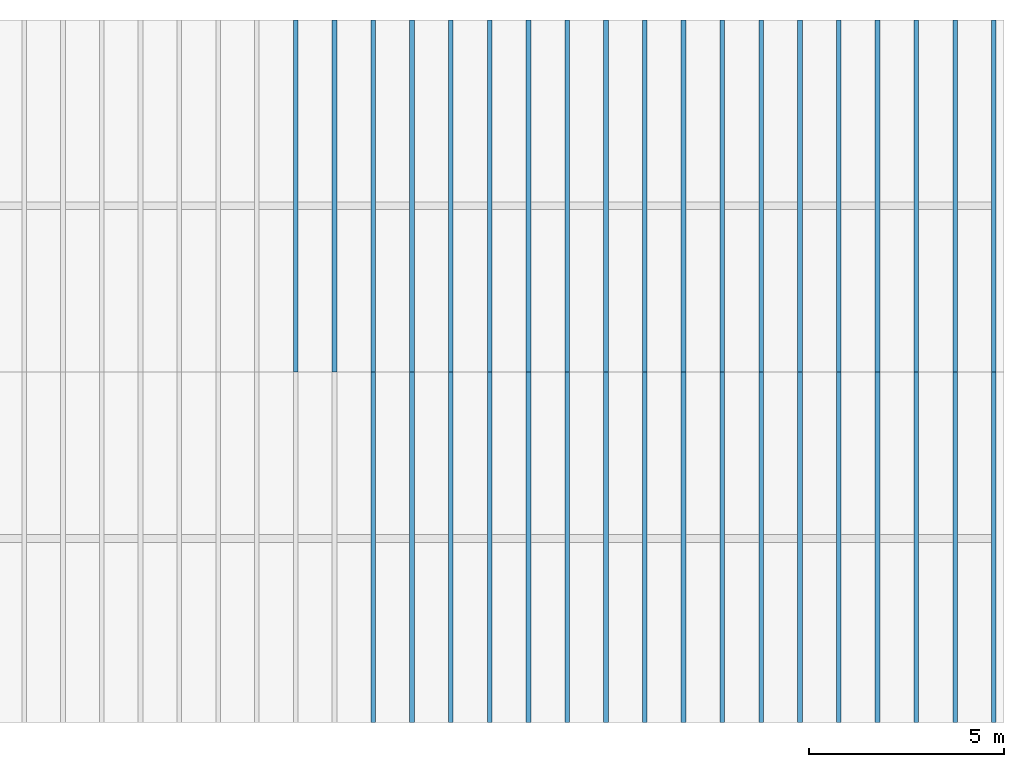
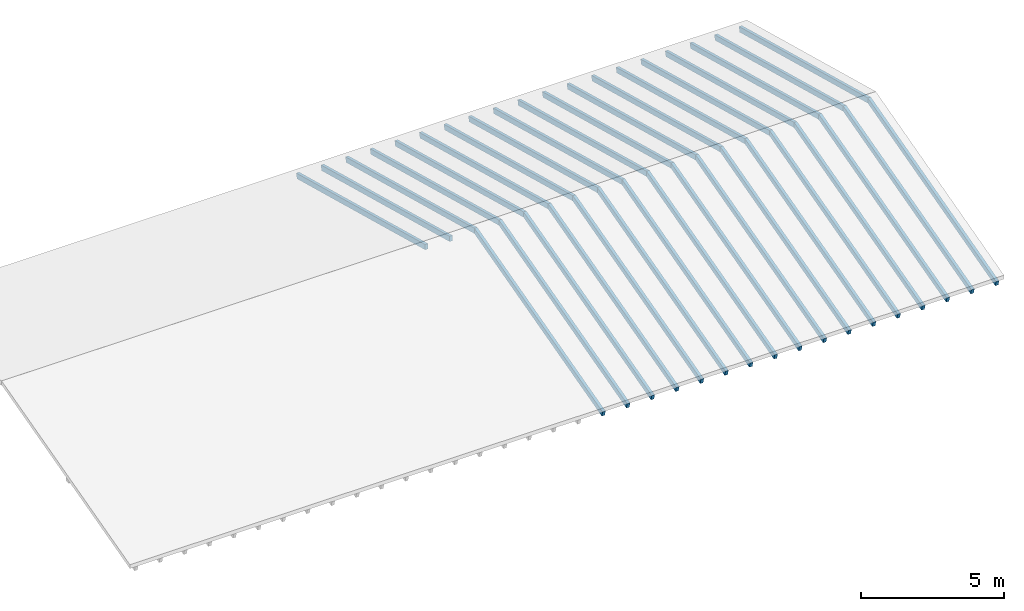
# One storey, part 2 of 3: 36 beams.
"""IFC4 building model written with IfcOpenShell, lengths in metres."""

from ifc_helpers import new_model, entity, si_unit, converted_unit, frame, origin_with_axes, origin_2d_with_axis, place, context, subcontext, project, spatial, rectangle, extrude, clip, halfspace, material, material_profile, profile_set, profile_usage, type_object, element, save


model = new_model("IFC4")

# Units and contexts
model_context = context("Model", 3, precision=1e-05, world=origin_with_axes())
plan_context = context("Plan", 2, precision=1e-05, world=origin_2d_with_axis())
body_context = subcontext(model_context, "Body", "Model", "MODEL_VIEW")
ifc_project = project(units=[converted_unit("PLANEANGLEUNIT", "degree", entity("IfcReal", 0.0174532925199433), si_unit("PLANEANGLEUNIT", "RADIAN"), dimensions=[0, 0, 0, 0, 0, 0, 0]), si_unit("AREAUNIT", "SQUARE_METRE"), si_unit("VOLUMEUNIT", "CUBIC_METRE"), si_unit("LENGTHUNIT", "METRE")], contexts=[model_context, plan_context])

# Site, building, storey
site_placement = place(None, origin_with_axes())
site = spatial("IfcSite", under=ifc_project, at=site_placement, Name="My Site")
building_placement = place(site_placement, origin_with_axes())
building = spatial("IfcBuilding", under=site, at=building_placement, Name="Werkhalle")
storey_placement = place(building_placement, frame((0.0, 0.0, 8.89999961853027), z_axis=(0.0, 0.0, 1.0), x_axis=(1.0, 0.0, 0.0)))
storey = spatial("IfcBuildingStorey", under=building, at=storey_placement, Name="05 Dach")

# Beams
ifc_material = material(Name="Fichte", Category="Holz")
ifc_material_profile = material_profile(ifc_material, rectangle(XDim=0.119999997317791, YDim=0.219999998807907))
ifc_profile_set = profile_set([ifc_material_profile], Name="Balken 12 / 22")
ifc_profile_usage_1 = profile_usage(ifc_profile_set, cardinal=1)
beam_type = type_object("IfcBeamType", Name="Holzbalken", PredefinedType="NOTDEFINED", material=ifc_profile_set)
beam_1_placement = place(storey_placement, frame((35.0000038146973, 16.9843139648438, -2.66374588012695), z_axis=(0.0, -0.965925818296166, 0.258819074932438), x_axis=(1.0, 0.0, 0.0)))
element("IfcBeam", 1, at=beam_1_placement, inside=storey, type_object=beam_type, material=ifc_profile_usage_1, Name="Sparren rechts", context=body_context, shape_type="Clipping", body=[
    clip(extrude(rectangle(XDim=0.119999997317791, YDim=0.219999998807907), frame((-0.0599999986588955, 0.109999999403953, 0.0), z_axis=(0.0, 0.0, 1.0), x_axis=(1.0, 0.0, 0.0)), (0.0, 0.0, 1.0), 9.96124942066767), halfspace(frame((-35.0000038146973, 0.220001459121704, 9.36019802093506), z_axis=(4.37113492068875e-08, -0.258823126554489, 0.965924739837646), x_axis=(-1.17125340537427e-08, -0.965924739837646, -0.258823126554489)), False)),
])
ifc_profile_usage_2 = profile_usage(ifc_profile_set, cardinal=3)
beam_2_placement = place(storey_placement, frame((35.0000038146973, -0.942802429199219, -2.65262269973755), z_axis=(-8.44439190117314e-08, 0.965925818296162, 0.258819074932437), x_axis=(-0.999999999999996, -8.74227765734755e-08, 7.16093850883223e-15)))
element("IfcBeam", 2, at=beam_2_placement, inside=storey, type_object=beam_type, material=ifc_profile_usage_2, Name="Sparren Links", context=body_context, shape_type="Clipping", body=[
    clip(extrude(rectangle(XDim=0.119999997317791, YDim=0.219999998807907), frame((0.0599999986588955, 0.109999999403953, 0.0), z_axis=(0.0, 0.0, 1.0), x_axis=(1.0, 0.0, 0.0)), (0.0, 0.0, 1.0), 9.91827341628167), halfspace(frame((35.0000038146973, 0.220000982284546, 9.31722068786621), z_axis=(-4.37114344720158e-08, -0.2588150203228, 0.965926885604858), x_axis=(1.17121610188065e-08, -0.965926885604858, -0.2588150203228)), False)),
])
ifc_profile_usage_3 = profile_usage(ifc_profile_set, cardinal=1)
beam_3_placement = place(storey_placement, frame((34.0040054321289, 16.9843139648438, -2.66374588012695), z_axis=(0.0, -0.965925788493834, 0.258819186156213), x_axis=(1.0, 0.0, 0.0)))
element("IfcBeam", 3, at=beam_3_placement, inside=storey, type_object=beam_type, material=ifc_profile_usage_3, Name="Sparren rechts", context=body_context, shape_type="Clipping", body=[
    clip(extrude(rectangle(XDim=0.119999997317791, YDim=0.219999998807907), frame((-0.0599999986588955, 0.109999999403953, 0.0), z_axis=(0.0, 0.0, 1.0), x_axis=(1.0, 0.0, 0.0)), (0.0, 0.0, 1.0), 9.96124942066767), halfspace(frame((-35.0000038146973, 0.220001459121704, 9.36019802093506), z_axis=(4.37113492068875e-08, -0.258823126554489, 0.965924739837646), x_axis=(-1.17125340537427e-08, -0.965924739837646, -0.258823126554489)), False)),
])
ifc_profile_usage_4 = profile_usage(ifc_profile_set, cardinal=1)
beam_4_placement = place(storey_placement, frame((33.0080032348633, 16.9843139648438, -2.66374588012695), z_axis=(0.0, -0.965925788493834, 0.258819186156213), x_axis=(1.0, 0.0, 0.0)))
element("IfcBeam", 4, at=beam_4_placement, inside=storey, type_object=beam_type, material=ifc_profile_usage_4, Name="Sparren rechts", context=body_context, shape_type="Clipping", body=[
    clip(extrude(rectangle(XDim=0.119999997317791, YDim=0.219999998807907), frame((-0.0599999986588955, 0.109999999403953, 0.0), z_axis=(0.0, 0.0, 1.0), x_axis=(1.0, 0.0, 0.0)), (0.0, 0.0, 1.0), 9.96124942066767), halfspace(frame((-35.0000038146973, 0.220001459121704, 9.36019802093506), z_axis=(4.37113492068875e-08, -0.258823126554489, 0.965924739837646), x_axis=(-1.17125340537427e-08, -0.965924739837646, -0.258823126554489)), False)),
])
ifc_profile_usage_5 = profile_usage(ifc_profile_set, cardinal=1)
beam_5_placement = place(storey_placement, frame((32.0120048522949, 16.9843139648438, -2.66374588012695), z_axis=(0.0, -0.965925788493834, 0.258819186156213), x_axis=(1.0, 0.0, 0.0)))
element("IfcBeam", 5, at=beam_5_placement, inside=storey, type_object=beam_type, material=ifc_profile_usage_5, Name="Sparren rechts", context=body_context, shape_type="Clipping", body=[
    clip(extrude(rectangle(XDim=0.119999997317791, YDim=0.219999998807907), frame((-0.0599999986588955, 0.109999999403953, 0.0), z_axis=(0.0, 0.0, 1.0), x_axis=(1.0, 0.0, 0.0)), (0.0, 0.0, 1.0), 9.96124942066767), halfspace(frame((-35.0000038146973, 0.220001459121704, 9.36019802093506), z_axis=(4.37113492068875e-08, -0.258823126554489, 0.965924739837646), x_axis=(-1.17125340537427e-08, -0.965924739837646, -0.258823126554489)), False)),
])
ifc_profile_usage_6 = profile_usage(ifc_profile_set, cardinal=1)
beam_6_placement = place(storey_placement, frame((31.0160045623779, 16.9843139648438, -2.66374588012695), z_axis=(0.0, -0.965925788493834, 0.258819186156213), x_axis=(1.0, 0.0, 0.0)))
element("IfcBeam", 6, at=beam_6_placement, inside=storey, type_object=beam_type, material=ifc_profile_usage_6, Name="Sparren rechts", context=body_context, shape_type="Clipping", body=[
    clip(extrude(rectangle(XDim=0.119999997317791, YDim=0.219999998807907), frame((-0.0599999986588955, 0.109999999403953, 0.0), z_axis=(0.0, 0.0, 1.0), x_axis=(1.0, 0.0, 0.0)), (0.0, 0.0, 1.0), 9.96124942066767), halfspace(frame((-35.0000038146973, 0.220001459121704, 9.36019802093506), z_axis=(4.37113492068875e-08, -0.258823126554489, 0.965924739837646), x_axis=(-1.17125340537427e-08, -0.965924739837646, -0.258823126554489)), False)),
])
ifc_profile_usage_7 = profile_usage(ifc_profile_set, cardinal=1)
beam_7_placement = place(storey_placement, frame((30.0200042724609, 16.9843139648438, -2.66374588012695), z_axis=(0.0, -0.965925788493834, 0.258819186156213), x_axis=(1.0, 0.0, 0.0)))
element("IfcBeam", 7, at=beam_7_placement, inside=storey, type_object=beam_type, material=ifc_profile_usage_7, Name="Sparren rechts", context=body_context, shape_type="Clipping", body=[
    clip(extrude(rectangle(XDim=0.119999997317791, YDim=0.219999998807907), frame((-0.0599999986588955, 0.109999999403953, 0.0), z_axis=(0.0, 0.0, 1.0), x_axis=(1.0, 0.0, 0.0)), (0.0, 0.0, 1.0), 9.96124942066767), halfspace(frame((-35.0000038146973, 0.220001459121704, 9.36019802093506), z_axis=(4.37113492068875e-08, -0.258823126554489, 0.965924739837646), x_axis=(-1.17125340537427e-08, -0.965924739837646, -0.258823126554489)), False)),
])
ifc_profile_usage_8 = profile_usage(ifc_profile_set, cardinal=1)
beam_8_placement = place(storey_placement, frame((29.0240039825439, 16.9843139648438, -2.66374588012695), z_axis=(0.0, -0.965925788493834, 0.258819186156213), x_axis=(1.0, 0.0, 0.0)))
element("IfcBeam", 8, at=beam_8_placement, inside=storey, type_object=beam_type, material=ifc_profile_usage_8, Name="Sparren rechts", context=body_context, shape_type="Clipping", body=[
    clip(extrude(rectangle(XDim=0.119999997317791, YDim=0.219999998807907), frame((-0.0599999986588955, 0.109999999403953, 0.0), z_axis=(0.0, 0.0, 1.0), x_axis=(1.0, 0.0, 0.0)), (0.0, 0.0, 1.0), 9.96124942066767), halfspace(frame((-35.0000038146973, 0.220001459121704, 9.36019802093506), z_axis=(4.37113492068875e-08, -0.258823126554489, 0.965924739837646), x_axis=(-1.17125340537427e-08, -0.965924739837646, -0.258823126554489)), False)),
])
ifc_profile_usage_9 = profile_usage(ifc_profile_set, cardinal=1)
beam_9_placement = place(storey_placement, frame((28.028003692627, 16.9843139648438, -2.66374588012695), z_axis=(0.0, -0.965925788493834, 0.258819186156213), x_axis=(1.0, 0.0, 0.0)))
element("IfcBeam", 9, at=beam_9_placement, inside=storey, type_object=beam_type, material=ifc_profile_usage_9, Name="Sparren rechts", context=body_context, shape_type="Clipping", body=[
    clip(extrude(rectangle(XDim=0.119999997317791, YDim=0.219999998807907), frame((-0.0599999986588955, 0.109999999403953, 0.0), z_axis=(0.0, 0.0, 1.0), x_axis=(1.0, 0.0, 0.0)), (0.0, 0.0, 1.0), 9.96124942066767), halfspace(frame((-35.0000038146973, 0.220001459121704, 9.36019802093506), z_axis=(4.37113492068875e-08, -0.258823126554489, 0.965924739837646), x_axis=(-1.17125340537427e-08, -0.965924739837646, -0.258823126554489)), False)),
])
ifc_profile_usage_10 = profile_usage(ifc_profile_set, cardinal=1)
beam_10_placement = place(storey_placement, frame((27.03200340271, 16.9843139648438, -2.66374588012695), z_axis=(0.0, -0.965925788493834, 0.258819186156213), x_axis=(1.0, 0.0, 0.0)))
element("IfcBeam", 10, at=beam_10_placement, inside=storey, type_object=beam_type, material=ifc_profile_usage_10, Name="Sparren rechts", context=body_context, shape_type="Clipping", body=[
    clip(extrude(rectangle(XDim=0.119999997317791, YDim=0.219999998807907), frame((-0.0599999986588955, 0.109999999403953, 0.0), z_axis=(0.0, 0.0, 1.0), x_axis=(1.0, 0.0, 0.0)), (0.0, 0.0, 1.0), 9.96124942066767), halfspace(frame((-35.0000038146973, 0.220001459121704, 9.36019802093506), z_axis=(4.37113492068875e-08, -0.258823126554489, 0.965924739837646), x_axis=(-1.17125340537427e-08, -0.965924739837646, -0.258823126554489)), False)),
])
ifc_profile_usage_11 = profile_usage(ifc_profile_set, cardinal=1)
beam_11_placement = place(storey_placement, frame((26.036003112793, 16.9843139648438, -2.66374588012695), z_axis=(0.0, -0.965925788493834, 0.258819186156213), x_axis=(1.0, 0.0, 0.0)))
element("IfcBeam", 11, at=beam_11_placement, inside=storey, type_object=beam_type, material=ifc_profile_usage_11, Name="Sparren rechts", context=body_context, shape_type="Clipping", body=[
    clip(extrude(rectangle(XDim=0.119999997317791, YDim=0.219999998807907), frame((-0.0599999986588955, 0.109999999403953, 0.0), z_axis=(0.0, 0.0, 1.0), x_axis=(1.0, 0.0, 0.0)), (0.0, 0.0, 1.0), 9.96124942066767), halfspace(frame((-35.0000038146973, 0.220001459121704, 9.36019802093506), z_axis=(4.37113492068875e-08, -0.258823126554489, 0.965924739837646), x_axis=(-1.17125340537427e-08, -0.965924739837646, -0.258823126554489)), False)),
])
ifc_profile_usage_12 = profile_usage(ifc_profile_set, cardinal=1)
beam_12_placement = place(storey_placement, frame((25.0400047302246, 16.9843139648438, -2.66374588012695), z_axis=(0.0, -0.965925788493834, 0.258819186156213), x_axis=(1.0, 0.0, 0.0)))
element("IfcBeam", 12, at=beam_12_placement, inside=storey, type_object=beam_type, material=ifc_profile_usage_12, Name="Sparren rechts", context=body_context, shape_type="Clipping", body=[
    clip(extrude(rectangle(XDim=0.119999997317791, YDim=0.219999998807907), frame((-0.0599999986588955, 0.109999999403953, 0.0), z_axis=(0.0, 0.0, 1.0), x_axis=(1.0, 0.0, 0.0)), (0.0, 0.0, 1.0), 9.96124942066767), halfspace(frame((-35.0000038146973, 0.220001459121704, 9.36019802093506), z_axis=(4.37113492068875e-08, -0.258823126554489, 0.965924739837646), x_axis=(-1.17125340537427e-08, -0.965924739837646, -0.258823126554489)), False)),
])
ifc_profile_usage_13 = profile_usage(ifc_profile_set, cardinal=1)
beam_13_placement = place(storey_placement, frame((24.044002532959, 16.9843139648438, -2.66374588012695), z_axis=(0.0, -0.965925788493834, 0.258819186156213), x_axis=(1.0, 0.0, 0.0)))
element("IfcBeam", 13, at=beam_13_placement, inside=storey, type_object=beam_type, material=ifc_profile_usage_13, Name="Sparren rechts", context=body_context, shape_type="Clipping", body=[
    clip(extrude(rectangle(XDim=0.119999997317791, YDim=0.219999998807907), frame((-0.0599999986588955, 0.109999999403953, 0.0), z_axis=(0.0, 0.0, 1.0), x_axis=(1.0, 0.0, 0.0)), (0.0, 0.0, 1.0), 9.96124942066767), halfspace(frame((-35.0000038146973, 0.220001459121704, 9.36019802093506), z_axis=(4.37113492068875e-08, -0.258823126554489, 0.965924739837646), x_axis=(-1.17125340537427e-08, -0.965924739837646, -0.258823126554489)), False)),
])
ifc_profile_usage_14 = profile_usage(ifc_profile_set, cardinal=1)
beam_14_placement = place(storey_placement, frame((23.0480041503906, 16.9843139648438, -2.66374588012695), z_axis=(0.0, -0.965925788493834, 0.258819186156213), x_axis=(1.0, 0.0, 0.0)))
element("IfcBeam", 14, at=beam_14_placement, inside=storey, type_object=beam_type, material=ifc_profile_usage_14, Name="Sparren rechts", context=body_context, shape_type="Clipping", body=[
    clip(extrude(rectangle(XDim=0.119999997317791, YDim=0.219999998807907), frame((-0.0599999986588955, 0.109999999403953, 0.0), z_axis=(0.0, 0.0, 1.0), x_axis=(1.0, 0.0, 0.0)), (0.0, 0.0, 1.0), 9.96124942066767), halfspace(frame((-35.0000038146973, 0.220001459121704, 9.36019802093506), z_axis=(4.37113492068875e-08, -0.258823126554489, 0.965924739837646), x_axis=(-1.17125340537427e-08, -0.965924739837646, -0.258823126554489)), False)),
])
ifc_profile_usage_15 = profile_usage(ifc_profile_set, cardinal=1)
beam_15_placement = place(storey_placement, frame((22.0520038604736, 16.9843139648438, -2.66374588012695), z_axis=(0.0, -0.965925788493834, 0.258819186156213), x_axis=(1.0, 0.0, 0.0)))
element("IfcBeam", 15, at=beam_15_placement, inside=storey, type_object=beam_type, material=ifc_profile_usage_15, Name="Sparren rechts", context=body_context, shape_type="Clipping", body=[
    clip(extrude(rectangle(XDim=0.119999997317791, YDim=0.219999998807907), frame((-0.0599999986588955, 0.109999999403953, 0.0), z_axis=(0.0, 0.0, 1.0), x_axis=(1.0, 0.0, 0.0)), (0.0, 0.0, 1.0), 9.96124942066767), halfspace(frame((-35.0000038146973, 0.220001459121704, 9.36019802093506), z_axis=(4.37113492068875e-08, -0.258823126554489, 0.965924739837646), x_axis=(-1.17125340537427e-08, -0.965924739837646, -0.258823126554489)), False)),
])
ifc_profile_usage_16 = profile_usage(ifc_profile_set, cardinal=1)
beam_16_placement = place(storey_placement, frame((21.0560035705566, 16.9843139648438, -2.66374588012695), z_axis=(0.0, -0.965925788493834, 0.258819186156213), x_axis=(1.0, 0.0, 0.0)))
element("IfcBeam", 16, at=beam_16_placement, inside=storey, type_object=beam_type, material=ifc_profile_usage_16, Name="Sparren rechts", context=body_context, shape_type="Clipping", body=[
    clip(extrude(rectangle(XDim=0.119999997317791, YDim=0.219999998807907), frame((-0.0599999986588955, 0.109999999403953, 0.0), z_axis=(0.0, 0.0, 1.0), x_axis=(1.0, 0.0, 0.0)), (0.0, 0.0, 1.0), 9.96124942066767), halfspace(frame((-35.0000038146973, 0.220001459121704, 9.36019802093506), z_axis=(4.37113492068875e-08, -0.258823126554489, 0.965924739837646), x_axis=(-1.17125340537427e-08, -0.965924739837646, -0.258823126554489)), False)),
])
ifc_profile_usage_17 = profile_usage(ifc_profile_set, cardinal=1)
beam_17_placement = place(storey_placement, frame((20.0600051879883, 16.9843139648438, -2.66374588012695), z_axis=(0.0, -0.965925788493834, 0.258819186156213), x_axis=(1.0, 0.0, 0.0)))
element("IfcBeam", 17, at=beam_17_placement, inside=storey, type_object=beam_type, material=ifc_profile_usage_17, Name="Sparren rechts", context=body_context, shape_type="Clipping", body=[
    clip(extrude(rectangle(XDim=0.119999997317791, YDim=0.219999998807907), frame((-0.0599999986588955, 0.109999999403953, 0.0), z_axis=(0.0, 0.0, 1.0), x_axis=(1.0, 0.0, 0.0)), (0.0, 0.0, 1.0), 9.96124942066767), halfspace(frame((-35.0000038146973, 0.220001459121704, 9.36019802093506), z_axis=(4.37113492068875e-08, -0.258823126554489, 0.965924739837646), x_axis=(-1.17125340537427e-08, -0.965924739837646, -0.258823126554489)), False)),
])
ifc_profile_usage_18 = profile_usage(ifc_profile_set, cardinal=1)
beam_18_placement = place(storey_placement, frame((19.0640029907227, 16.9843139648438, -2.66374588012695), z_axis=(0.0, -0.965925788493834, 0.258819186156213), x_axis=(1.0, 0.0, 0.0)))
element("IfcBeam", 18, at=beam_18_placement, inside=storey, type_object=beam_type, material=ifc_profile_usage_18, Name="Sparren rechts", context=body_context, shape_type="Clipping", body=[
    clip(extrude(rectangle(XDim=0.119999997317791, YDim=0.219999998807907), frame((-0.0599999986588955, 0.109999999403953, 0.0), z_axis=(0.0, 0.0, 1.0), x_axis=(1.0, 0.0, 0.0)), (0.0, 0.0, 1.0), 9.96124942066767), halfspace(frame((-35.0000038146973, 0.220001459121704, 9.36019802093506), z_axis=(4.37113492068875e-08, -0.258823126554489, 0.965924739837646), x_axis=(-1.17125340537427e-08, -0.965924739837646, -0.258823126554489)), False)),
])
ifc_profile_usage_19 = profile_usage(ifc_profile_set, cardinal=1)
beam_19_placement = place(storey_placement, frame((18.0680046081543, 16.9843139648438, -2.66374588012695), z_axis=(0.0, -0.965925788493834, 0.258819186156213), x_axis=(1.0, 0.0, 0.0)))
element("IfcBeam", 19, at=beam_19_placement, inside=storey, type_object=beam_type, material=ifc_profile_usage_19, Name="Sparren rechts", context=body_context, shape_type="Clipping", body=[
    clip(extrude(rectangle(XDim=0.119999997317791, YDim=0.219999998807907), frame((-0.0599999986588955, 0.109999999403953, 0.0), z_axis=(0.0, 0.0, 1.0), x_axis=(1.0, 0.0, 0.0)), (0.0, 0.0, 1.0), 9.96124942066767), halfspace(frame((-35.0000038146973, 0.220001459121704, 9.36019802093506), z_axis=(4.37113492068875e-08, -0.258823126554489, 0.965924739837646), x_axis=(-1.17125340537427e-08, -0.965924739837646, -0.258823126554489)), False)),
])
ifc_profile_usage_20 = profile_usage(ifc_profile_set, cardinal=1)
beam_20_placement = place(storey_placement, frame((17.0720043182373, 16.9843139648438, -2.66374588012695), z_axis=(0.0, -0.965925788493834, 0.258819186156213), x_axis=(1.0, 0.0, 0.0)))
element("IfcBeam", 20, at=beam_20_placement, inside=storey, type_object=beam_type, material=ifc_profile_usage_20, Name="Sparren rechts", context=body_context, shape_type="Clipping", body=[
    clip(extrude(rectangle(XDim=0.119999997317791, YDim=0.219999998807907), frame((-0.0599999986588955, 0.109999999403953, 0.0), z_axis=(0.0, 0.0, 1.0), x_axis=(1.0, 0.0, 0.0)), (0.0, 0.0, 1.0), 9.96124942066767), halfspace(frame((-35.0000038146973, 0.220001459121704, 9.36019802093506), z_axis=(4.37113492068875e-08, -0.258823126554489, 0.965924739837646), x_axis=(-1.17125340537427e-08, -0.965924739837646, -0.258823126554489)), False)),
])
ifc_profile_usage_21 = profile_usage(ifc_profile_set, cardinal=3)
beam_21_placement = place(storey_placement, frame((34.0040054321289, -0.942802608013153, -2.65262269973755), z_axis=(-1.45850730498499e-07, 0.965925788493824, 0.25881918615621), x_axis=(-0.999999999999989, -1.50995802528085e-07, 4.07969310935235e-15)))
element("IfcBeam", 21, at=beam_21_placement, inside=storey, type_object=beam_type, material=ifc_profile_usage_21, Name="Sparren Links", context=body_context, shape_type="Clipping", body=[
    clip(extrude(rectangle(XDim=0.119999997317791, YDim=0.219999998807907), frame((0.0599999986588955, 0.109999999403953, 0.0), z_axis=(0.0, 0.0, 1.0), x_axis=(1.0, 0.0, 0.0)), (0.0, 0.0, 1.0), 9.91827341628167), halfspace(frame((35.0000038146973, 0.220000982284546, 9.31722068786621), z_axis=(-4.37114344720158e-08, -0.2588150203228, 0.965926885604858), x_axis=(1.17121610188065e-08, -0.965926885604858, -0.2588150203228)), False)),
])
ifc_profile_usage_22 = profile_usage(ifc_profile_set, cardinal=3)
beam_22_placement = place(storey_placement, frame((33.0080032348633, -0.942802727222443, -2.65262269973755), z_axis=(-1.45850730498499e-07, 0.965925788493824, 0.25881918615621), x_axis=(-0.999999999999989, -1.50995802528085e-07, 4.07969310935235e-15)))
element("IfcBeam", 22, at=beam_22_placement, inside=storey, type_object=beam_type, material=ifc_profile_usage_22, Name="Sparren Links", context=body_context, shape_type="Clipping", body=[
    clip(extrude(rectangle(XDim=0.119999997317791, YDim=0.219999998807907), frame((0.0599999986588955, 0.109999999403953, 0.0), z_axis=(0.0, 0.0, 1.0), x_axis=(1.0, 0.0, 0.0)), (0.0, 0.0, 1.0), 9.91827341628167), halfspace(frame((35.0000038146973, 0.220000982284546, 9.31722068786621), z_axis=(-4.37114344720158e-08, -0.2588150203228, 0.965926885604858), x_axis=(1.17121610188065e-08, -0.965926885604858, -0.2588150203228)), False)),
])
ifc_profile_usage_23 = profile_usage(ifc_profile_set, cardinal=3)
beam_23_placement = place(storey_placement, frame((32.0120048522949, -0.942802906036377, -2.65262269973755), z_axis=(-1.45850730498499e-07, 0.965925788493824, 0.25881918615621), x_axis=(-0.999999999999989, -1.50995802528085e-07, 4.07969310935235e-15)))
element("IfcBeam", 23, at=beam_23_placement, inside=storey, type_object=beam_type, material=ifc_profile_usage_23, Name="Sparren Links", context=body_context, shape_type="Clipping", body=[
    clip(extrude(rectangle(XDim=0.119999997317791, YDim=0.219999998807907), frame((0.0599999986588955, 0.109999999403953, 0.0), z_axis=(0.0, 0.0, 1.0), x_axis=(1.0, 0.0, 0.0)), (0.0, 0.0, 1.0), 9.91827341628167), halfspace(frame((35.0000038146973, 0.220000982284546, 9.31722068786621), z_axis=(-4.37114344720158e-08, -0.2588150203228, 0.965926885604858), x_axis=(1.17121610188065e-08, -0.965926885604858, -0.2588150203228)), False)),
])
ifc_profile_usage_24 = profile_usage(ifc_profile_set, cardinal=3)
beam_24_placement = place(storey_placement, frame((31.0160045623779, -0.942803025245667, -2.65262269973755), z_axis=(-1.45850730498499e-07, 0.965925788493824, 0.25881918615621), x_axis=(-0.999999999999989, -1.50995802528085e-07, 4.07969310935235e-15)))
element("IfcBeam", 24, at=beam_24_placement, inside=storey, type_object=beam_type, material=ifc_profile_usage_24, Name="Sparren Links", context=body_context, shape_type="Clipping", body=[
    clip(extrude(rectangle(XDim=0.119999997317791, YDim=0.219999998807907), frame((0.0599999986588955, 0.109999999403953, 0.0), z_axis=(0.0, 0.0, 1.0), x_axis=(1.0, 0.0, 0.0)), (0.0, 0.0, 1.0), 9.91827341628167), halfspace(frame((35.0000038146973, 0.220000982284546, 9.31722068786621), z_axis=(-4.37114344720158e-08, -0.2588150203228, 0.965926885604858), x_axis=(1.17121610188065e-08, -0.965926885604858, -0.2588150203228)), False)),
])
ifc_profile_usage_25 = profile_usage(ifc_profile_set, cardinal=3)
beam_25_placement = place(storey_placement, frame((30.0200042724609, -0.942803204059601, -2.65262269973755), z_axis=(-1.45850730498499e-07, 0.965925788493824, 0.25881918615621), x_axis=(-0.999999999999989, -1.50995802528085e-07, 4.07969310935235e-15)))
element("IfcBeam", 25, at=beam_25_placement, inside=storey, type_object=beam_type, material=ifc_profile_usage_25, Name="Sparren Links", context=body_context, shape_type="Clipping", body=[
    clip(extrude(rectangle(XDim=0.119999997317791, YDim=0.219999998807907), frame((0.0599999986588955, 0.109999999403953, 0.0), z_axis=(0.0, 0.0, 1.0), x_axis=(1.0, 0.0, 0.0)), (0.0, 0.0, 1.0), 9.91827341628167), halfspace(frame((35.0000038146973, 0.220000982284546, 9.31722068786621), z_axis=(-4.37114344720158e-08, -0.2588150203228, 0.965926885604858), x_axis=(1.17121610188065e-08, -0.965926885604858, -0.2588150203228)), False)),
])
ifc_profile_usage_26 = profile_usage(ifc_profile_set, cardinal=3)
beam_26_placement = place(storey_placement, frame((29.0240039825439, -0.94280332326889, -2.65262269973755), z_axis=(-1.45850730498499e-07, 0.965925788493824, 0.25881918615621), x_axis=(-0.999999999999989, -1.50995802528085e-07, 4.07969310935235e-15)))
element("IfcBeam", 26, at=beam_26_placement, inside=storey, type_object=beam_type, material=ifc_profile_usage_26, Name="Sparren Links", context=body_context, shape_type="Clipping", body=[
    clip(extrude(rectangle(XDim=0.119999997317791, YDim=0.219999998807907), frame((0.0599999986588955, 0.109999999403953, 0.0), z_axis=(0.0, 0.0, 1.0), x_axis=(1.0, 0.0, 0.0)), (0.0, 0.0, 1.0), 9.91827341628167), halfspace(frame((35.0000038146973, 0.220000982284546, 9.31722068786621), z_axis=(-4.37114344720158e-08, -0.2588150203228, 0.965926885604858), x_axis=(1.17121610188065e-08, -0.965926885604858, -0.2588150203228)), False)),
])
ifc_profile_usage_27 = profile_usage(ifc_profile_set, cardinal=3)
beam_27_placement = place(storey_placement, frame((28.028003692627, -0.942803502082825, -2.65262269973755), z_axis=(-1.45850730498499e-07, 0.965925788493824, 0.25881918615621), x_axis=(-0.999999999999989, -1.50995802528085e-07, 4.07969310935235e-15)))
element("IfcBeam", 27, at=beam_27_placement, inside=storey, type_object=beam_type, material=ifc_profile_usage_27, Name="Sparren Links", context=body_context, shape_type="Clipping", body=[
    clip(extrude(rectangle(XDim=0.119999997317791, YDim=0.219999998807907), frame((0.0599999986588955, 0.109999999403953, 0.0), z_axis=(0.0, 0.0, 1.0), x_axis=(1.0, 0.0, 0.0)), (0.0, 0.0, 1.0), 9.91827341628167), halfspace(frame((35.0000038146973, 0.220000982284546, 9.31722068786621), z_axis=(-4.37114344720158e-08, -0.2588150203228, 0.965926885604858), x_axis=(1.17121610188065e-08, -0.965926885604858, -0.2588150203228)), False)),
])
ifc_profile_usage_28 = profile_usage(ifc_profile_set, cardinal=3)
beam_28_placement = place(storey_placement, frame((27.03200340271, -0.942803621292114, -2.65262269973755), z_axis=(-1.45850730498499e-07, 0.965925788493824, 0.25881918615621), x_axis=(-0.999999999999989, -1.50995802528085e-07, 4.07969310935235e-15)))
element("IfcBeam", 28, at=beam_28_placement, inside=storey, type_object=beam_type, material=ifc_profile_usage_28, Name="Sparren Links", context=body_context, shape_type="Clipping", body=[
    clip(extrude(rectangle(XDim=0.119999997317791, YDim=0.219999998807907), frame((0.0599999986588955, 0.109999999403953, 0.0), z_axis=(0.0, 0.0, 1.0), x_axis=(1.0, 0.0, 0.0)), (0.0, 0.0, 1.0), 9.91827341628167), halfspace(frame((35.0000038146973, 0.220000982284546, 9.31722068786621), z_axis=(-4.37114344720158e-08, -0.2588150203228, 0.965926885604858), x_axis=(1.17121610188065e-08, -0.965926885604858, -0.2588150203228)), False)),
])
ifc_profile_usage_29 = profile_usage(ifc_profile_set, cardinal=3)
beam_29_placement = place(storey_placement, frame((26.036003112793, -0.942803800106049, -2.65262269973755), z_axis=(-1.45850730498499e-07, 0.965925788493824, 0.25881918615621), x_axis=(-0.999999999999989, -1.50995802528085e-07, 4.07969310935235e-15)))
element("IfcBeam", 29, at=beam_29_placement, inside=storey, type_object=beam_type, material=ifc_profile_usage_29, Name="Sparren Links", context=body_context, shape_type="Clipping", body=[
    clip(extrude(rectangle(XDim=0.119999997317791, YDim=0.219999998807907), frame((0.0599999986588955, 0.109999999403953, 0.0), z_axis=(0.0, 0.0, 1.0), x_axis=(1.0, 0.0, 0.0)), (0.0, 0.0, 1.0), 9.91827341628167), halfspace(frame((35.0000038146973, 0.220000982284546, 9.31722068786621), z_axis=(-4.37114344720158e-08, -0.2588150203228, 0.965926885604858), x_axis=(1.17121610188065e-08, -0.965926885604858, -0.2588150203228)), False)),
])
ifc_profile_usage_30 = profile_usage(ifc_profile_set, cardinal=3)
beam_30_placement = place(storey_placement, frame((25.0400047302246, -0.942803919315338, -2.65262269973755), z_axis=(-1.45850730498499e-07, 0.965925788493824, 0.25881918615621), x_axis=(-0.999999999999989, -1.50995802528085e-07, 4.07969310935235e-15)))
element("IfcBeam", 30, at=beam_30_placement, inside=storey, type_object=beam_type, material=ifc_profile_usage_30, Name="Sparren Links", context=body_context, shape_type="Clipping", body=[
    clip(extrude(rectangle(XDim=0.119999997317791, YDim=0.219999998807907), frame((0.0599999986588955, 0.109999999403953, 0.0), z_axis=(0.0, 0.0, 1.0), x_axis=(1.0, 0.0, 0.0)), (0.0, 0.0, 1.0), 9.91827341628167), halfspace(frame((35.0000038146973, 0.220000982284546, 9.31722068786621), z_axis=(-4.37114344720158e-08, -0.2588150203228, 0.965926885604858), x_axis=(1.17121610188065e-08, -0.965926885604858, -0.2588150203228)), False)),
])
ifc_profile_usage_31 = profile_usage(ifc_profile_set, cardinal=3)
beam_31_placement = place(storey_placement, frame((24.044002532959, -0.942804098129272, -2.65262269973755), z_axis=(-1.45850730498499e-07, 0.965925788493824, 0.25881918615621), x_axis=(-0.999999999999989, -1.50995802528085e-07, 4.07969310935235e-15)))
element("IfcBeam", 31, at=beam_31_placement, inside=storey, type_object=beam_type, material=ifc_profile_usage_31, Name="Sparren Links", context=body_context, shape_type="Clipping", body=[
    clip(extrude(rectangle(XDim=0.119999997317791, YDim=0.219999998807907), frame((0.0599999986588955, 0.109999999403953, 0.0), z_axis=(0.0, 0.0, 1.0), x_axis=(1.0, 0.0, 0.0)), (0.0, 0.0, 1.0), 9.91827341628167), halfspace(frame((35.0000038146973, 0.220000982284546, 9.31722068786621), z_axis=(-4.37114344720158e-08, -0.2588150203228, 0.965926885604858), x_axis=(1.17121610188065e-08, -0.965926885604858, -0.2588150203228)), False)),
])
ifc_profile_usage_32 = profile_usage(ifc_profile_set, cardinal=3)
beam_32_placement = place(storey_placement, frame((23.0480041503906, -0.942804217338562, -2.65262269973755), z_axis=(-1.45850730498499e-07, 0.965925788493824, 0.25881918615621), x_axis=(-0.999999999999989, -1.50995802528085e-07, 4.07969310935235e-15)))
element("IfcBeam", 32, at=beam_32_placement, inside=storey, type_object=beam_type, material=ifc_profile_usage_32, Name="Sparren Links", context=body_context, shape_type="Clipping", body=[
    clip(extrude(rectangle(XDim=0.119999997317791, YDim=0.219999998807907), frame((0.0599999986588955, 0.109999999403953, 0.0), z_axis=(0.0, 0.0, 1.0), x_axis=(1.0, 0.0, 0.0)), (0.0, 0.0, 1.0), 9.91827341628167), halfspace(frame((35.0000038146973, 0.220000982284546, 9.31722068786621), z_axis=(-4.37114344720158e-08, -0.2588150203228, 0.965926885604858), x_axis=(1.17121610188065e-08, -0.965926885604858, -0.2588150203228)), False)),
])
ifc_profile_usage_33 = profile_usage(ifc_profile_set, cardinal=3)
beam_33_placement = place(storey_placement, frame((22.0520038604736, -0.942804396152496, -2.65262269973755), z_axis=(-1.45850730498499e-07, 0.965925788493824, 0.25881918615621), x_axis=(-0.999999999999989, -1.50995802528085e-07, 4.07969310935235e-15)))
element("IfcBeam", 33, at=beam_33_placement, inside=storey, type_object=beam_type, material=ifc_profile_usage_33, Name="Sparren Links", context=body_context, shape_type="Clipping", body=[
    clip(extrude(rectangle(XDim=0.119999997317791, YDim=0.219999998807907), frame((0.0599999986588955, 0.109999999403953, 0.0), z_axis=(0.0, 0.0, 1.0), x_axis=(1.0, 0.0, 0.0)), (0.0, 0.0, 1.0), 9.91827341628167), halfspace(frame((35.0000038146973, 0.220000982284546, 9.31722068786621), z_axis=(-4.37114344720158e-08, -0.2588150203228, 0.965926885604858), x_axis=(1.17121610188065e-08, -0.965926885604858, -0.2588150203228)), False)),
])
ifc_profile_usage_34 = profile_usage(ifc_profile_set, cardinal=3)
beam_34_placement = place(storey_placement, frame((21.0560035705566, -0.942804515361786, -2.65262269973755), z_axis=(-1.45850730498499e-07, 0.965925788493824, 0.25881918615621), x_axis=(-0.999999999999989, -1.50995802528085e-07, 4.07969310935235e-15)))
element("IfcBeam", 34, at=beam_34_placement, inside=storey, type_object=beam_type, material=ifc_profile_usage_34, Name="Sparren Links", context=body_context, shape_type="Clipping", body=[
    clip(extrude(rectangle(XDim=0.119999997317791, YDim=0.219999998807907), frame((0.0599999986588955, 0.109999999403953, 0.0), z_axis=(0.0, 0.0, 1.0), x_axis=(1.0, 0.0, 0.0)), (0.0, 0.0, 1.0), 9.91827341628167), halfspace(frame((35.0000038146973, 0.220000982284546, 9.31722068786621), z_axis=(-4.37114344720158e-08, -0.2588150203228, 0.965926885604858), x_axis=(1.17121610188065e-08, -0.965926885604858, -0.2588150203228)), False)),
])
ifc_profile_usage_35 = profile_usage(ifc_profile_set, cardinal=3)
beam_35_placement = place(storey_placement, frame((20.0600051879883, -0.94280469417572, -2.65262269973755), z_axis=(-1.45850730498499e-07, 0.965925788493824, 0.25881918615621), x_axis=(-0.999999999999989, -1.50995802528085e-07, 4.07969310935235e-15)))
element("IfcBeam", 35, at=beam_35_placement, inside=storey, type_object=beam_type, material=ifc_profile_usage_35, Name="Sparren Links", context=body_context, shape_type="Clipping", body=[
    clip(extrude(rectangle(XDim=0.119999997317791, YDim=0.219999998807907), frame((0.0599999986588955, 0.109999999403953, 0.0), z_axis=(0.0, 0.0, 1.0), x_axis=(1.0, 0.0, 0.0)), (0.0, 0.0, 1.0), 9.91827341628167), halfspace(frame((35.0000038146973, 0.220000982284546, 9.31722068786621), z_axis=(-4.37114344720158e-08, -0.2588150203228, 0.965926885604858), x_axis=(1.17121610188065e-08, -0.965926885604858, -0.2588150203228)), False)),
])
ifc_profile_usage_36 = profile_usage(ifc_profile_set, cardinal=3)
beam_36_placement = place(storey_placement, frame((19.0640029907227, -0.94280481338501, -2.65262269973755), z_axis=(-1.45850730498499e-07, 0.965925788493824, 0.25881918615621), x_axis=(-0.999999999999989, -1.50995802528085e-07, 4.07969310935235e-15)))
element("IfcBeam", 36, at=beam_36_placement, inside=storey, type_object=beam_type, material=ifc_profile_usage_36, Name="Sparren Links", context=body_context, shape_type="Clipping", body=[
    clip(extrude(rectangle(XDim=0.119999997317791, YDim=0.219999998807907), frame((0.0599999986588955, 0.109999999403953, 0.0), z_axis=(0.0, 0.0, 1.0), x_axis=(1.0, 0.0, 0.0)), (0.0, 0.0, 1.0), 9.91827341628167), halfspace(frame((35.0000038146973, 0.220000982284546, 9.31722068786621), z_axis=(-4.37114344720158e-08, -0.2588150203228, 0.965926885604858), x_axis=(1.17121610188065e-08, -0.965926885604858, -0.2588150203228)), False)),
])

save(model, "model.ifc")
